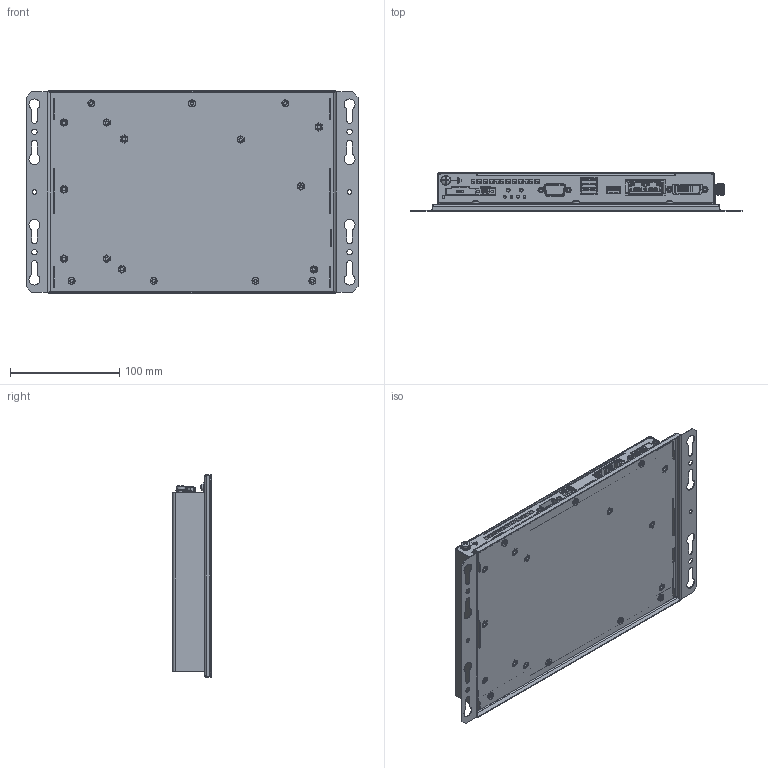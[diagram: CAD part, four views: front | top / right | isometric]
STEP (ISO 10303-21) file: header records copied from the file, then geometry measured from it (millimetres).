
FILE_DESCRIPTION((''),'2;1');
FILE_NAME('C6E22-Box_SL_','2017-03-29T',('manpal'),(''),'PRO/ENGINEER BY PARAMETRIC TECHNOLOGY CORPORATION, 2013410','PRO/ENGINEER BY PARAMETRIC TECHNOLOGY CORPORATION, 2013410','');
FILE_SCHEMA(('AUTOMOTIVE_DESIGN { 1 0 10303 214 1 1 1 1 }'));
Products named in the file (1): C6E22-Box_SL_
Bounding box: 303.4 x 35 x 185 mm (x, y, z)
Surface area: 290473.4 mm2 (no closed solid volume)
Topology: 0 solids, 232 shells, 3656 faces, 14692 edges, 11140 vertices
Faces by surface type: plane 3058, cylinder 409, cone 109, bspline 37, torus 30, sphere 11, extrusion 2
Entity records: 166481 total; most frequent: CARTESIAN_POINT 35436, DIRECTION 23481, ORIENTED_EDGE 21519, EDGE_CURVE 14687, VECTOR 11929, LINE 11927, VERTEX_POINT 11140, AXIS2_PLACEMENT_3D 5776
